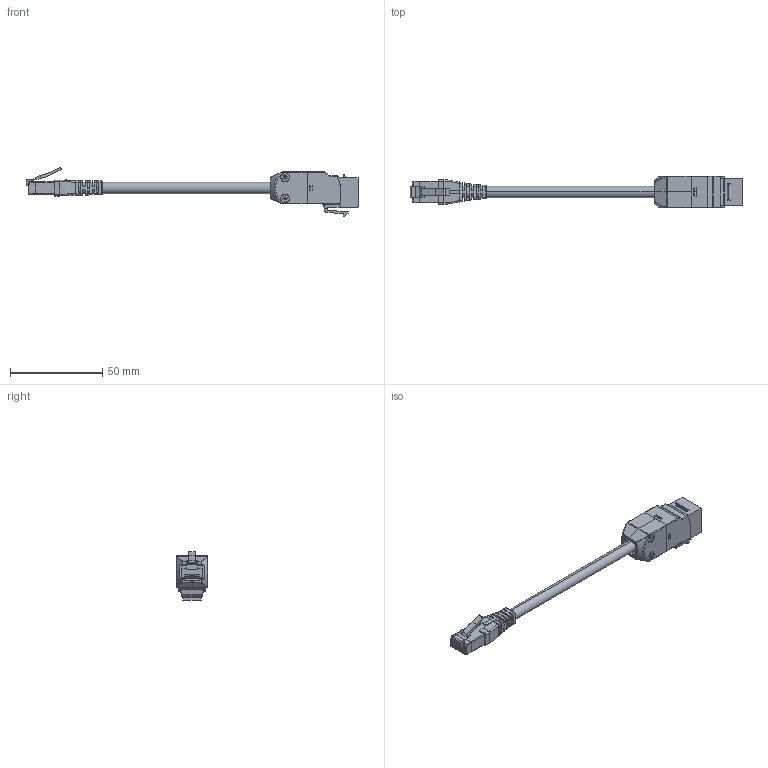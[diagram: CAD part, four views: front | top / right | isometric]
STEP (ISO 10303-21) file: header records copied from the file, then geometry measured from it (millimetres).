
FILE_DESCRIPTION (( 'STEP AP214' ), '1' );
FILE_NAME ('EN-65K.STEP', '2017-05-31T11:34:19', ( '' ), ( '' ), 'SwSTEP 2.0', 'SolidWorks 2016', '' );
FILE_SCHEMA (( 'AUTOMOTIVE_DESIGN' ));
Length unit declared in the file: millimetre
Products named in the file (2): EN-65K
Bounding box: 179.72 x 17 x 26.08 mm (x, y, z)
Volume: 18926.9 mm3; surface area: 14794.2 mm2
Topology: 41 solids, 41 shells, 1420 faces, 3745 edges, 2386 vertices
Faces by surface type: plane 841, cylinder 352, bspline 184, cone 41, sphere 2
Entity records: 62653 total; most frequent: CARTESIAN_POINT 14330, ORIENTED_EDGE 7454, DIRECTION 6246, EDGE_CURVE 3727, VECTOR 2546, LINE 2546, VERTEX_POINT 2386, AXIS2_PLACEMENT_3D 1850
